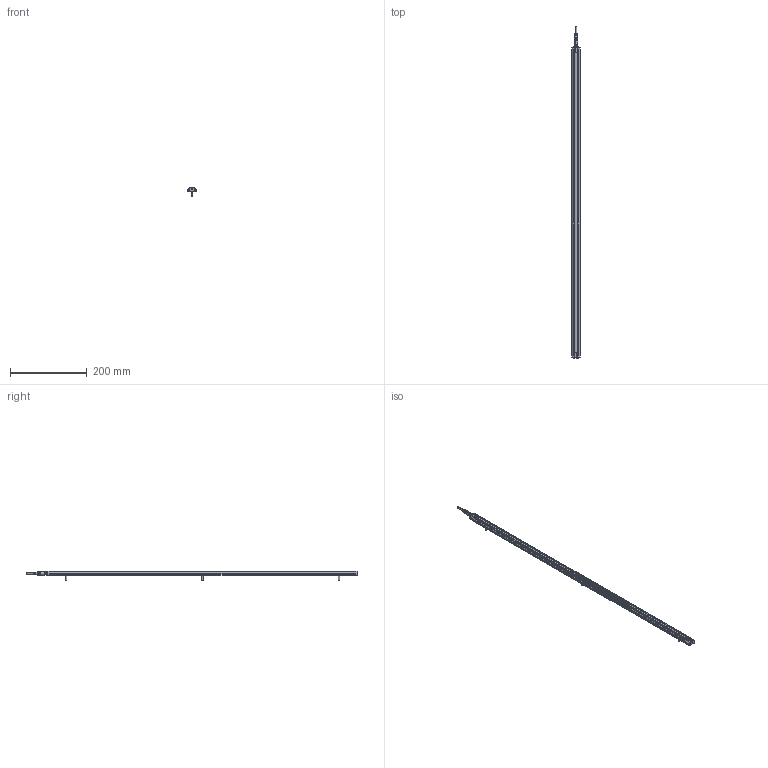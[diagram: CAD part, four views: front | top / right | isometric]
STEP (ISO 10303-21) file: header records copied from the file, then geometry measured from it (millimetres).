
FILE_DESCRIPTION (( 'STEP AP214' ), '1' );
FILE_NAME ('ILGA-B-K2-0810mm.STEP', '2026-04-24T22:55:21', ( '' ), ( '' ), 'SwSTEP 2.0', 'SolidWorks 2025', '' );
FILE_SCHEMA (( 'AUTOMOTIVE_DESIGN' ));
Length unit declared in the file: millimetre
Products named in the file (1): ILGA-B-K2-0810mm
Bounding box: 22.4 x 864.5 x 25.7 mm (x, y, z)
Surface area: 113261.7 mm2 (no closed solid volume)
Topology: 0 solids, 16 shells, 966 faces, 2516 edges, 1561 vertices
Faces by surface type: cylinder 399, plane 361, cone 84, bspline 56, torus 50, sphere 16
Entity records: 42561 total; most frequent: CARTESIAN_POINT 8657, ORIENTED_EDGE 4913, DIRECTION 4852, EDGE_CURVE 2464, AXIS2_PLACEMENT_3D 1860, VERTEX_POINT 1561, LINE 1132, VECTOR 1132
